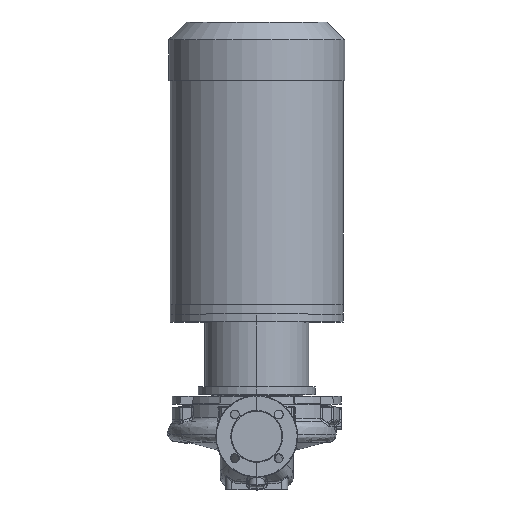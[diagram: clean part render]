
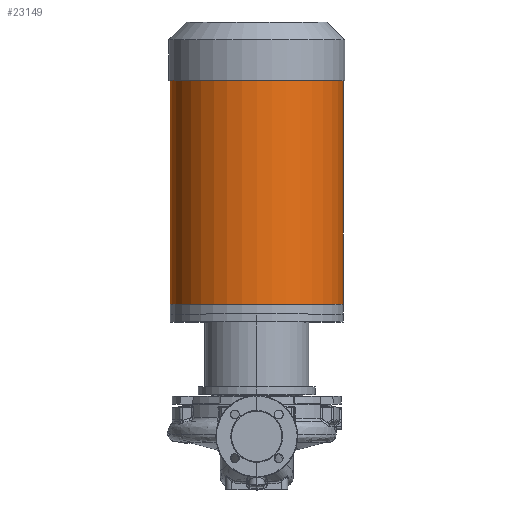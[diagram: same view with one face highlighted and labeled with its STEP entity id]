
A CAD part, top view. The second image highlights one B-rep face of the part: STEP entity #23149.
In plain terms, the highlighted cylindrical face has radius 174.5 mm (diameter 349 mm), a partial arc.
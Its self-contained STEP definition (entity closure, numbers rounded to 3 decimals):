
#1791 = ORIENTED_EDGE ( 'NONE', *, *, #62076, .T. ) ;
#2079 = DIRECTION ( 'NONE',  ( 0., -1., 0. ) ) ;
#4733 = VECTOR ( 'NONE', #30516, 1000. ) ;
#4838 = CIRCLE ( 'NONE', #69487, 174.5 ) ;
#7678 = DIRECTION ( 'NONE',  ( -1., 0., 0. ) ) ;
#7856 = DIRECTION ( 'NONE',  ( -1., 0., 0. ) ) ;
#13232 = LINE ( 'NONE', #35575, #71800 ) ;
#13431 = DIRECTION ( 'NONE',  ( 0., -1., 0. ) ) ;
#18622 = VERTEX_POINT ( 'NONE', #33863 ) ;
#19837 = CARTESIAN_POINT ( 'NONE',  ( 0., 247.3, 0. ) ) ;
#23149 = ADVANCED_FACE ( 'NONE', ( #39500 ), #32875, .T. ) ;
#24687 = CARTESIAN_POINT ( 'NONE',  ( 174.5, 267.3, 0. ) ) ;
#25905 = DIRECTION ( 'NONE',  ( 0., -1., 0. ) ) ;
#27264 = ORIENTED_EDGE ( 'NONE', *, *, #53423, .F. ) ;
#30516 = DIRECTION ( 'NONE',  ( 0., -1., 0. ) ) ;
#31318 = CARTESIAN_POINT ( 'NONE',  ( 0., 267.3, 0. ) ) ;
#32875 = CYLINDRICAL_SURFACE ( 'NONE', #69083, 174.5 ) ;
#33863 = CARTESIAN_POINT ( 'NONE',  ( -174.5, 719.3, 0. ) ) ;
#34015 = LINE ( 'NONE', #67196, #4733 ) ;
#34782 = CIRCLE ( 'NONE', #61826, 174.5 ) ;
#35575 = CARTESIAN_POINT ( 'NONE',  ( -174.5, 247.3, 0. ) ) ;
#35840 = DIRECTION ( 'NONE',  ( 0., -1., 0. ) ) ;
#39500 = FACE_OUTER_BOUND ( 'NONE', #41123, .T. ) ;
#41123 = EDGE_LOOP ( 'NONE', ( #51774, #1791, #45624, #27264 ) ) ;
#44809 = CARTESIAN_POINT ( 'NONE',  ( -174.5, 267.3, 0. ) ) ;
#45624 = ORIENTED_EDGE ( 'NONE', *, *, #62481, .T. ) ;
#51774 = ORIENTED_EDGE ( 'NONE', *, *, #62639, .F. ) ;
#52486 = VERTEX_POINT ( 'NONE', #44809 ) ;
#53423 = EDGE_CURVE ( 'NONE', #64383, #52486, #34782, .T. ) ;
#55382 = CARTESIAN_POINT ( 'NONE',  ( 0., 719.3, 0. ) ) ;
#56966 = VERTEX_POINT ( 'NONE', #77237 ) ;
#61826 = AXIS2_PLACEMENT_3D ( 'NONE', #31318, #2079, #7856 ) ;
#62076 = EDGE_CURVE ( 'NONE', #56966, #18622, #4838, .T. ) ;
#62481 = EDGE_CURVE ( 'NONE', #18622, #52486, #13232, .T. ) ;
#62639 = EDGE_CURVE ( 'NONE', #56966, #64383, #34015, .T. ) ;
#64383 = VERTEX_POINT ( 'NONE', #24687 ) ;
#67196 = CARTESIAN_POINT ( 'NONE',  ( 174.5, 247.3, 0. ) ) ;
#69083 = AXIS2_PLACEMENT_3D ( 'NONE', #19837, #25905, #73405 ) ;
#69487 = AXIS2_PLACEMENT_3D ( 'NONE', #55382, #13431, #7678 ) ;
#71800 = VECTOR ( 'NONE', #35840, 1000. ) ;
#73405 = DIRECTION ( 'NONE',  ( -1., 0., 0. ) ) ;
#77237 = CARTESIAN_POINT ( 'NONE',  ( 174.5, 719.3, 0. ) ) ;
